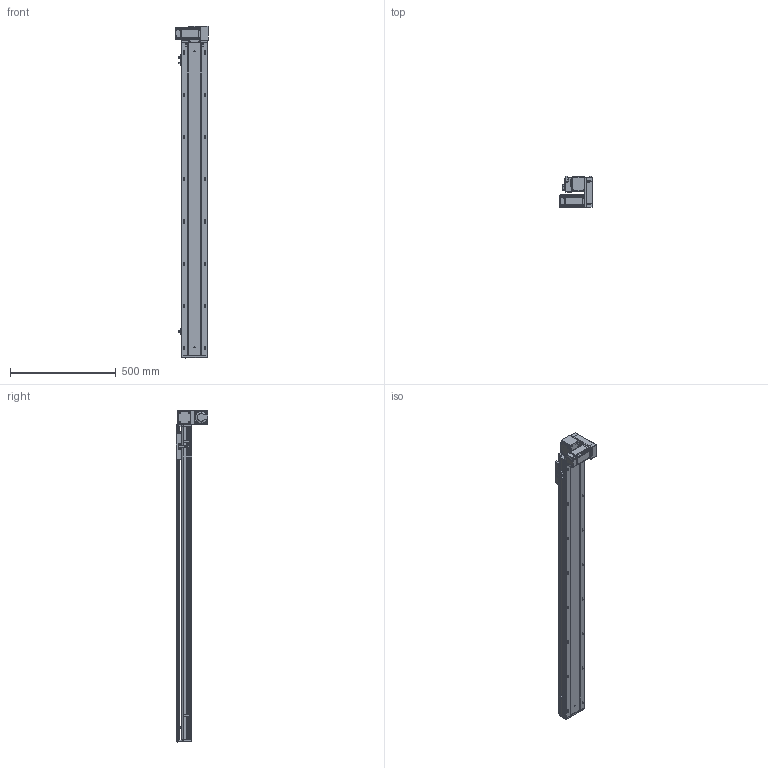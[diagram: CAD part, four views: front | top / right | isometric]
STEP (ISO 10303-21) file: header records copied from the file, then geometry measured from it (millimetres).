
FILE_DESCRIPTION (( 'STEP AP203' ), '1' );
FILE_NAME ('RY120-T-300-DR.SLDASM_1250.step', '2021-03-01T03:36:09', ( '盈信电脑' ), ( '东莞市道滘镇水果街19号' ), 'SwSTEP 2.0', 'SolidWorks 2012', '' );
FILE_SCHEMA (( 'CONFIG_CONTROL_DESIGN' ));
Length unit declared in the file: millimetre
Products named in the file (17): RY120-T-300-DR.SLDASM_1250; RY120-T主同步轮轴承压盖; RY120-T蹟翐M4; RY120-T萇儂欶; RY120-T萇儂假蚾啣; 15; RY120-T翋肮祭謫裔啣; 滅袉蝶18-10; RY120-T翋肮祭盓傅釱; RY120-T肮祭湍揤踡輸2; 覜茼ん672; RY120外置感应片(140共用）; RY120-T肮祭湍揤踡輸1; RY120肮祭湍臏賑輸; RY120-T-300-DR倰第奻裔啣_1250; RY120-T-300-DR倰第菁釱_1250; RY120綴裔啣
Assembly tree (22 placements, depth 2):
  RY120-T-300-DR.SLDASM_1250
    RY120-T-300-DR倰第菁釱_1250
    RY120-T-300-DR倰第奻裔啣_1250
    RY120肮祭湍臏賑輸
    RY120綴裔啣
    覜茼ん672  x3
    RY120外置感应片(140共用）
    RY120-T肮祭湍揤踡輸1
    RY120-T肮祭湍揤踡輸2
    RY120-T翋肮祭盓傅釱
    滅袉蝶18-10  x2
    RY120-T翋肮祭謫裔啣
    15
    RY120-T萇儂假蚾啣
    RY120-T蹟翐M4  x4
    RY120-T萇儂欶
    RY120-T主同步轮轴承压盖
Bounding box: 155.5 x 150 x 1571 mm (x, y, z)
Volume: 4164773.1 mm3; surface area: 1567285.6 mm2
Topology: 23 solids, 23 shells, 2894 faces, 7896 edges, 5054 vertices
Faces by surface type: plane 1426, cylinder 1110, cone 269, bspline 89
Entity records: 92271 total; most frequent: CARTESIAN_POINT 23588, ORIENTED_EDGE 14184, DIRECTION 13418, EDGE_CURVE 7092, VERTEX_POINT 4641, AXIS2_PLACEMENT_3D 4511, VECTOR 4396, LINE 4396
